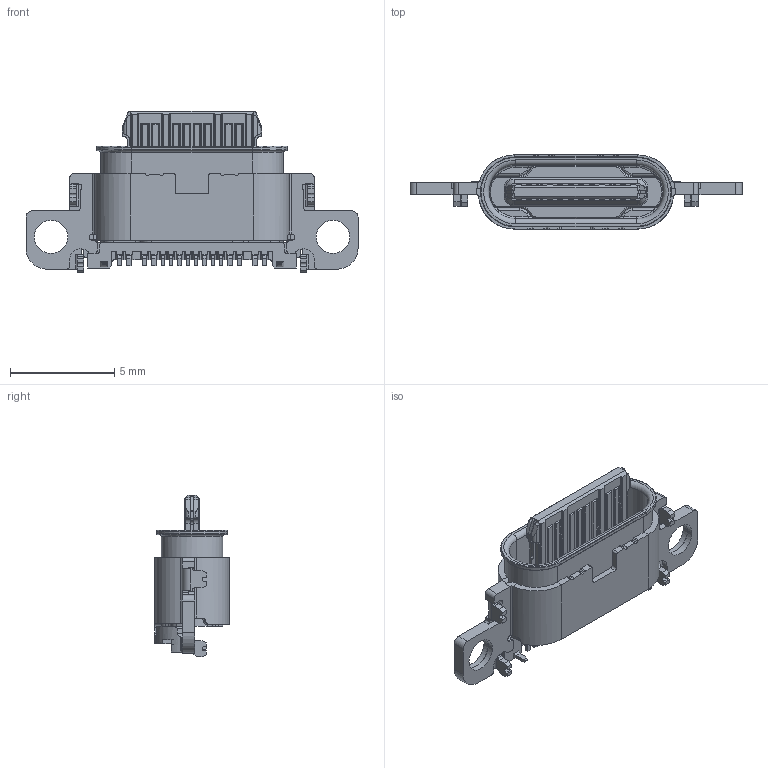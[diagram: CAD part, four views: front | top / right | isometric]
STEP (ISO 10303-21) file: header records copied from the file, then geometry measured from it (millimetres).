
FILE_DESCRIPTION((''),'2;1');
FILE_NAME('A32_HOUSING_2M','2026-02-02T16:48:32',('lenovo'),(''),'CREO PARAMETRIC BY PTC INC, 2024063','CREO PARAMETRIC BY PTC INC, 2024063','');
FILE_SCHEMA(('AUTOMOTIVE_DESIGN { 1 0 10303 214 1 1 1 1 }'));
Length unit declared in the file: millimetre
Products named in the file (1): A32_HOUSING_2M
Bounding box: 15.92 x 3.56 x 7.73 mm (x, y, z)
Volume: 117.3 mm3; surface area: 482 mm2
Topology: 1 solids, 1 shells, 1078 faces, 2890 edges, 1818 vertices
Faces by surface type: plane 692, cylinder 296, cone 44, torus 24, bspline 22
Entity records: 39024 total; most frequent: CARTESIAN_POINT 12054, ORIENTED_EDGE 5780, DIRECTION 5420, EDGE_CURVE 2890, VECTOR 2140, LINE 2140, VERTEX_POINT 1818, AXIS2_PLACEMENT_3D 1640
